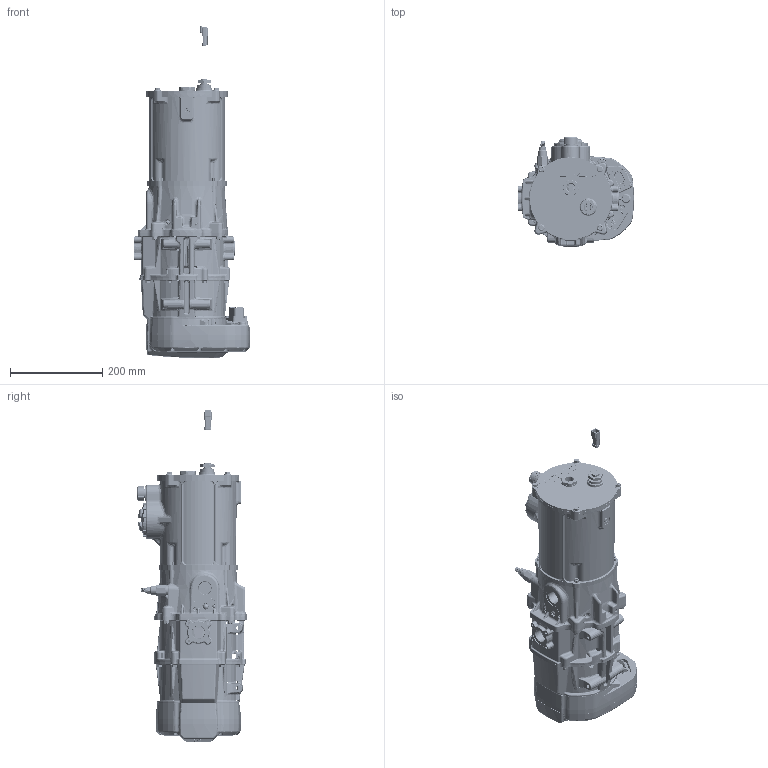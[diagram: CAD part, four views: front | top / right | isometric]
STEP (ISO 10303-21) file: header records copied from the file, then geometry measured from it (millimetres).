
FILE_DESCRIPTION (( 'STEP AP203' ), '1' );
FILE_NAME ('EHSU-2-R-Machined.STEP', '2024-01-29T23:57:17', ( '' ), ( '' ), 'SwSTEP 2.0', 'SolidWorks 2019', '' );
FILE_SCHEMA (( 'CONFIG_CONTROL_DESIGN' ));
Length unit declared in the file: inch
Products named in the file (19): 500-00662_M7740-12868; 016-00625; 500-00683_9452K354; 500-00421_Unthreaded; 500-00705_9452K322; 500-11000; 500-00708; 500-00621; 500-00704_2418T141; 500-00427_92196A540; 500-00532; Assem3^016-00625; 500-00674_4835K43; EHSU-2-105-350-U-8_No feet or screws; EHSU-2-R-Machined; .625 Hose x 1.75; 500-00672_5388K17; 500-00701; 500-00707
Assembly tree (24 placements, depth 4):
  EHSU-2-R-Machined
    EHSU-2-105-350-U-8_No feet or screws
    016-00625
      500-00621
      500-00532
      500-00708
      500-00701
      500-00421_Unthreaded  x4
      500-00427_92196A540  x4
      500-00705_9452K322
      500-00662_M7740-12868
      500-00674_4835K43
      500-00704_2418T141
      500-00683_9452K354
      Assem3^016-00625
        500-00707
        .625 Hose x 1.75
        500-00672_5388K17
      500-11000
Bounding box: 251.43 x 238.67 x 719.23 mm (x, y, z)
Volume: 1161156.1 mm3; surface area: 889050.8 mm2
Topology: 29 solids, 135 shells, 7684 faces, 22788 edges, 15004 vertices
Faces by surface type: plane 2303, bspline 1774, cylinder 1754, cone 1046, torus 711, sphere 96
Entity records: 342763 total; most frequent: CARTESIAN_POINT 178005, ORIENTED_EDGE 35254, DIRECTION 29108, EDGE_CURVE 20300, VERTEX_POINT 13560, AXIS2_PLACEMENT_3D 11324, EDGE_LOOP 7285, B_SPLINE_CURVE_WITH_KNOTS 6836
